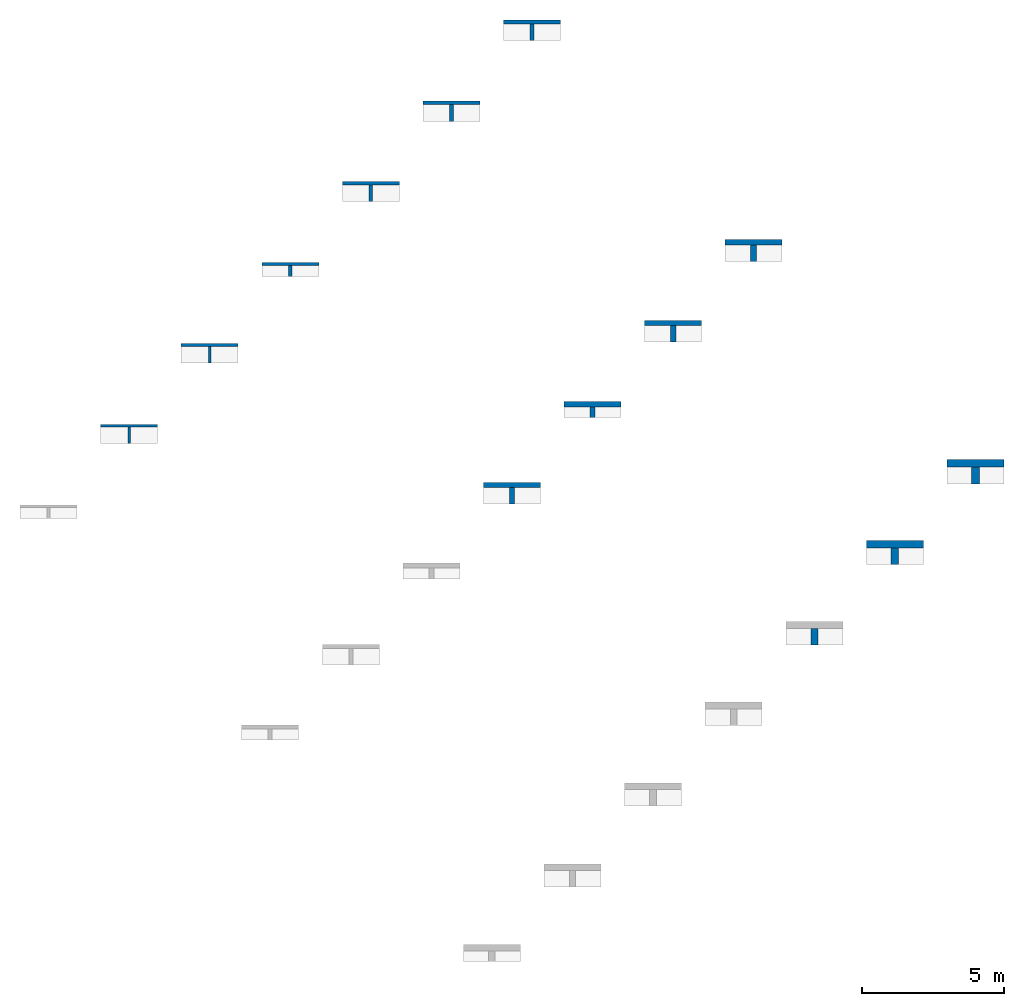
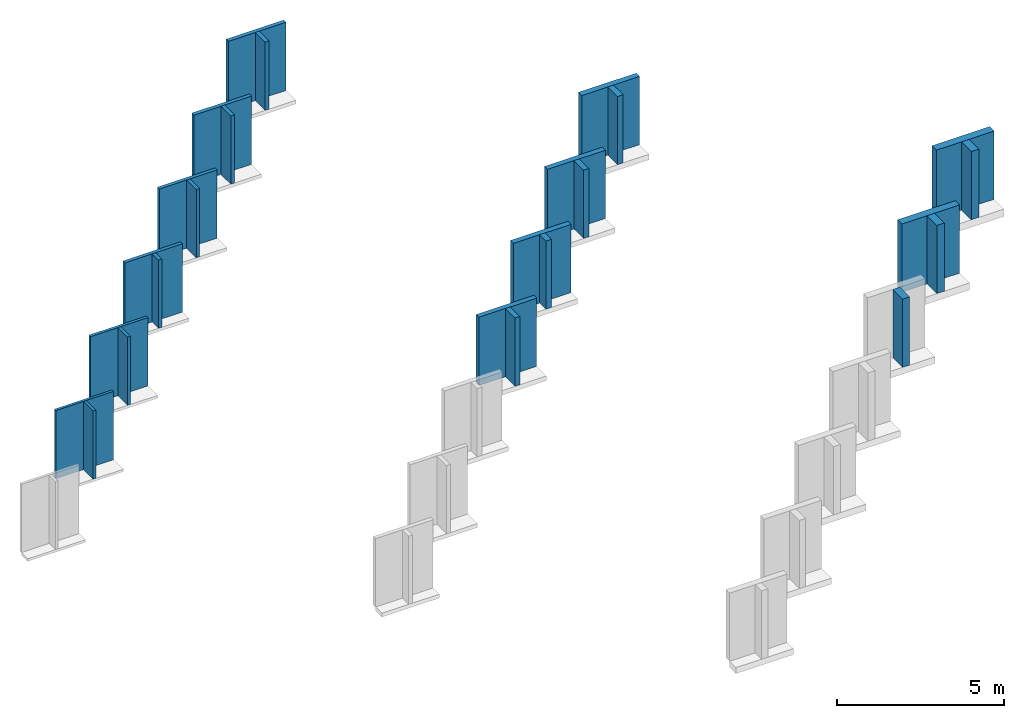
# One storey, part 2 of 2: 25 walls.
"""IFC2X3 building model written with IfcOpenShell, lengths in millimetres."""

from ifc_helpers import new_model, entity, si_unit, converted_unit, derived_unit, direction, frame, frame_2d, origin, place, context, subcontext, project, spatial, rectangle, extrude, material, layer, layer_set, layer_usage, type_object, element, save


model = new_model("IFC2X3")

# Units and contexts
model_context = context("Model", 3, precision=0.01, world=origin(), true_north=direction((6.12303176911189e-17, 1.0)))
context_of_model = context(None, 3, precision=0.01, world=origin(), true_north=direction((6.12303176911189e-17, 1.0)))
body_context = subcontext(model_context, "Body", "Model", "MODEL_VIEW")
ifc_project = project(units=[si_unit("LENGTHUNIT", "METRE", prefix="MILLI"), si_unit("AREAUNIT", "SQUARE_METRE"), si_unit("VOLUMEUNIT", "CUBIC_METRE"), converted_unit("PLANEANGLEUNIT", "DEGREE", entity("IfcRatioMeasure", 0.0174532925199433), si_unit("PLANEANGLEUNIT", "RADIAN"), dimensions=[0, 0, 0, 0, 0, 0, 0]), si_unit("MASSUNIT", "GRAM", prefix="KILO"), derived_unit("MASSDENSITYUNIT", [(si_unit("MASSUNIT", "GRAM", prefix="KILO"), 1), (si_unit("LENGTHUNIT", "METRE"), -3)]), derived_unit("MOMENTOFINERTIAUNIT", [(si_unit("LENGTHUNIT", "METRE"), 4)]), si_unit("TIMEUNIT", "SECOND"), si_unit("FREQUENCYUNIT", "HERTZ"), si_unit("THERMODYNAMICTEMPERATUREUNIT", "DEGREE_CELSIUS"), derived_unit("THERMALTRANSMITTANCEUNIT", [(si_unit("MASSUNIT", "GRAM", prefix="KILO"), 1), (si_unit("THERMODYNAMICTEMPERATUREUNIT", "KELVIN"), -1), (si_unit("TIMEUNIT", "SECOND"), -3)]), derived_unit("VOLUMETRICFLOWRATEUNIT", [(si_unit("LENGTHUNIT", "METRE"), 3), (si_unit("TIMEUNIT", "SECOND"), -1)]), si_unit("ELECTRICCURRENTUNIT", "AMPERE"), si_unit("ELECTRICVOLTAGEUNIT", "VOLT"), si_unit("POWERUNIT", "WATT"), si_unit("FORCEUNIT", "NEWTON", prefix="KILO"), si_unit("ILLUMINANCEUNIT", "LUX"), si_unit("LUMINOUSFLUXUNIT", "LUMEN"), si_unit("LUMINOUSINTENSITYUNIT", "CANDELA"), derived_unit("USERDEFINED", [(si_unit("MASSUNIT", "GRAM", prefix="KILO"), -1), (si_unit("LENGTHUNIT", "METRE"), -2), (si_unit("TIMEUNIT", "SECOND"), 3), (si_unit("LUMINOUSFLUXUNIT", "LUMEN"), 1)]), derived_unit("LINEARVELOCITYUNIT", [(si_unit("LENGTHUNIT", "METRE"), 1), (si_unit("TIMEUNIT", "SECOND"), -1)]), si_unit("PRESSUREUNIT", "PASCAL"), derived_unit("USERDEFINED", [(si_unit("LENGTHUNIT", "METRE"), -2), (si_unit("MASSUNIT", "GRAM", prefix="KILO"), 1), (si_unit("TIMEUNIT", "SECOND"), -2)]), derived_unit("LINEARFORCEUNIT", [(si_unit("MASSUNIT", "GRAM", prefix="KILO"), 1), (si_unit("LENGTHUNIT", "METRE"), 1), (si_unit("TIMEUNIT", "SECOND"), -2), (si_unit("LENGTHUNIT", "METRE"), -1)]), derived_unit("PLANARFORCEUNIT", [(si_unit("MASSUNIT", "GRAM", prefix="KILO"), 1), (si_unit("LENGTHUNIT", "METRE"), 1), (si_unit("TIMEUNIT", "SECOND"), -2), (si_unit("LENGTHUNIT", "METRE"), -2)])], contexts=[model_context, context_of_model])

# Site, building, storey
site_placement = place(None, origin())
site = spatial("IfcSite", under=ifc_project, at=site_placement, Name="Default", CompositionType="ELEMENT")
building_placement = place(site_placement, origin())
building = spatial("IfcBuilding", under=site, at=building_placement, CompositionType="ELEMENT")
storey_placement = place(building_placement, origin())
storey = spatial("IfcBuildingStorey", under=building, at=storey_placement, Name="Begane grond", CompositionType="ELEMENT", Elevation=0.0)

# Walls
ifc_material = material(Name="Knauf Insulation_Ecose® glaswol_naturoll 035")
ifc_layer_1 = layer(ifc_material, 90.0)
ifc_layer_set_1 = layer_set([ifc_layer_1], Name="Basic Wall:NLRS_21_WA_Naturoll 035_90x580x7600mm")
ifc_layer_usage_1 = layer_usage(ifc_layer_set_1, "AXIS2", "NEGATIVE", 45.0)
wall_type_1 = type_object("IfcWallType", Name="Basic Wall:NLRS_21_WA_Naturoll 035_90x580x7600mm", PredefinedType="STANDARD", material=ifc_layer_set_1)
wall_1_placement = place(storey_placement, frame((-1718.56215447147, 7320.34150287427, 0.0)))
element("IfcWallStandardCase", 1, at=wall_1_placement, inside=storey, type_object=wall_type_1, material=ifc_layer_usage_1, Name="Basic Wall:NLRS_21_WA_Naturoll 035_90x580x7600mm", ObjectType="Basic Wall:NLRS_21_WA_Naturoll 035_90x580x7600mm", context=body_context, shape_type="SweptSolid", body=[
    extrude(rectangle(XDim=2000.0, YDim=89.999999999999, at=frame_2d((1000.0, 0.0), x_axis=(-1.0, 0.0))), origin(), (0.0, 0.0, 1.0), 2500.0),
])
ifc_layer_usage_2 = layer_usage(ifc_layer_set_1, "AXIS2", "NEGATIVE", 45.0)
wall_2_placement = place(storey_placement, frame((-718.562154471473, 7275.34150287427, 0.0), z_axis=(0.0, 0.0, 1.0), x_axis=(0.0, -1.0, 0.0)))
element("IfcWallStandardCase", 2, at=wall_2_placement, inside=storey, type_object=wall_type_1, material=ifc_layer_usage_2, Name="Basic Wall:NLRS_21_WA_Naturoll 035_90x580x7600mm", ObjectType="Basic Wall:NLRS_21_WA_Naturoll 035_90x580x7600mm", context=body_context, shape_type="SweptSolid", body=[
    extrude(rectangle(XDim=580.0, YDim=90.0000000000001, at=frame_2d((290.0, 6.3948846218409e-14), x_axis=(-1.0, 0.0))), origin(), (0.0, 0.0, 1.0), 2500.0),
])
ifc_layer_2 = layer(ifc_material, 100.0)
ifc_layer_set_2 = layer_set([ifc_layer_2], Name="Basic Wall:NLRS_21_WA_Naturoll 035_100x580x7400mm")
ifc_layer_usage_3 = layer_usage(ifc_layer_set_2, "AXIS2", "NEGATIVE", 50.0)
wall_type_2 = type_object("IfcWallType", Name="Basic Wall:NLRS_21_WA_Naturoll 035_100x580x7400mm", PredefinedType="STANDARD", material=ifc_layer_set_2)
wall_3_placement = place(storey_placement, frame((1109.86497027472, 10153.7686276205, 0.0)))
element("IfcWallStandardCase", 3, at=wall_3_placement, inside=storey, type_object=wall_type_2, material=ifc_layer_usage_3, Name="Basic Wall:NLRS_21_WA_Naturoll 035_100x580x7400mm", ObjectType="Basic Wall:NLRS_21_WA_Naturoll 035_100x580x7400mm", context=body_context, shape_type="SweptSolid", body=[
    extrude(rectangle(XDim=2000.0, YDim=99.9999999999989, at=frame_2d((1000.0, 0.0), x_axis=(-1.0, 0.0))), origin(), (0.0, 0.0, 1.0), 2500.0),
])
ifc_layer_usage_4 = layer_usage(ifc_layer_set_2, "AXIS2", "NEGATIVE", 50.0)
wall_4_placement = place(storey_placement, frame((2109.86497027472, 10103.7686276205, 0.0), z_axis=(0.0, 0.0, 1.0), x_axis=(0.0, -1.0, 0.0)))
element("IfcWallStandardCase", 4, at=wall_4_placement, inside=storey, type_object=wall_type_2, material=ifc_layer_usage_4, Name="Basic Wall:NLRS_21_WA_Naturoll 035_100x580x7400mm", ObjectType="Basic Wall:NLRS_21_WA_Naturoll 035_100x580x7400mm", context=body_context, shape_type="SweptSolid", body=[
    extrude(rectangle(XDim=580.000000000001, YDim=100.0, at=frame_2d((290.000000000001, -7.105427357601e-14), x_axis=(-1.0, 0.0))), origin(), (0.0, 0.0, 1.0), 2500.0),
])
ifc_layer_3 = layer(ifc_material, 120.0)
ifc_layer_set_3 = layer_set([ifc_layer_3], Name="Basic Wall:NLRS_21_WA_Naturoll 035_120x380x6200mm")
ifc_layer_usage_5 = layer_usage(ifc_layer_set_3, "AXIS2", "NEGATIVE", 60.0)
wall_type_3 = type_object("IfcWallType", Name="Basic Wall:NLRS_21_WA_Naturoll 035_120x380x6200mm", PredefinedType="STANDARD", material=ifc_layer_set_3)
wall_5_placement = place(storey_placement, frame((3938.29209502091, 12992.1957523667, 0.0)))
element("IfcWallStandardCase", 5, at=wall_5_placement, inside=storey, type_object=wall_type_3, material=ifc_layer_usage_5, Name="Basic Wall:NLRS_21_WA_Naturoll 035_120x380x6200mm", ObjectType="Basic Wall:NLRS_21_WA_Naturoll 035_120x380x6200mm", context=body_context, shape_type="SweptSolid", body=[
    extrude(rectangle(XDim=2000.0, YDim=119.999999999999, at=frame_2d((1000.0, 0.0), x_axis=(-1.0, 0.0))), origin(), (0.0, 0.0, 1.0), 2500.0),
])
ifc_layer_usage_6 = layer_usage(ifc_layer_set_3, "AXIS2", "NEGATIVE", 60.0)
wall_6_placement = place(storey_placement, frame((4938.29209502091, 12932.1957523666, 0.0), z_axis=(0.0, 0.0, 1.0), x_axis=(0.0, -1.0, 0.0)))
element("IfcWallStandardCase", 6, at=wall_6_placement, inside=storey, type_object=wall_type_3, material=ifc_layer_usage_6, Name="Basic Wall:NLRS_21_WA_Naturoll 035_120x380x6200mm", ObjectType="Basic Wall:NLRS_21_WA_Naturoll 035_120x380x6200mm", context=body_context, shape_type="SweptSolid", body=[
    extrude(rectangle(XDim=380.0, YDim=120.000000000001, at=frame_2d((190.0, -2.34479102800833e-13), x_axis=(-1.0, 0.0))), origin(), (0.0, 0.0, 1.0), 2500.0),
])
ifc_layer_4 = layer(ifc_material, 120.0)
ifc_layer_set_4 = layer_set([ifc_layer_4], Name="Basic Wall:NLRS_21_WA_Naturoll 035_120x580x6200mm")
ifc_layer_usage_7 = layer_usage(ifc_layer_set_4, "AXIS2", "NEGATIVE", 60.0)
wall_type_4 = type_object("IfcWallType", Name="Basic Wall:NLRS_21_WA_Naturoll 035_120x580x6200mm", PredefinedType="STANDARD", material=ifc_layer_set_4)
wall_7_placement = place(storey_placement, frame((6766.71921976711, 15820.6228771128, 0.0)))
element("IfcWallStandardCase", 7, at=wall_7_placement, inside=storey, type_object=wall_type_4, material=ifc_layer_usage_7, Name="Basic Wall:NLRS_21_WA_Naturoll 035_120x580x6200mm", ObjectType="Basic Wall:NLRS_21_WA_Naturoll 035_120x580x6200mm", context=body_context, shape_type="SweptSolid", body=[
    extrude(rectangle(XDim=2000.0, YDim=119.999999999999, at=frame_2d((1000.0, 0.0), x_axis=(-1.0, 0.0))), origin(), (0.0, 0.0, 1.0), 2500.0),
])
ifc_layer_usage_8 = layer_usage(ifc_layer_set_4, "AXIS2", "NEGATIVE", 60.0)
wall_8_placement = place(storey_placement, frame((7766.7192197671, 15760.6228771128, 0.0), z_axis=(0.0, 0.0, 1.0), x_axis=(0.0, -1.0, 0.0)))
element("IfcWallStandardCase", 8, at=wall_8_placement, inside=storey, type_object=wall_type_4, material=ifc_layer_usage_8, Name="Basic Wall:NLRS_21_WA_Naturoll 035_120x580x6200mm", ObjectType="Basic Wall:NLRS_21_WA_Naturoll 035_120x580x6200mm", context=body_context, shape_type="SweptSolid", body=[
    extrude(rectangle(XDim=580.000000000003, YDim=120.000000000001, at=frame_2d((290.000000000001, -7.46069872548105e-14), x_axis=(-1.0, 0.0))), origin(), (0.0, 0.0, 1.0), 2500.0),
])
ifc_layer_5 = layer(ifc_material, 130.0)
ifc_layer_set_5 = layer_set([ifc_layer_5], Name="Basic Wall:NLRS_21_WA_Naturoll 035_130x590x5500mm")
ifc_layer_usage_9 = layer_usage(ifc_layer_set_5, "AXIS2", "NEGATIVE", 65.0)
wall_type_5 = type_object("IfcWallType", Name="Basic Wall:NLRS_21_WA_Naturoll 035_130x590x5500mm", PredefinedType="STANDARD", material=ifc_layer_set_5)
wall_9_placement = place(storey_placement, frame((9595.1463445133, 18654.050001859, 0.0)))
element("IfcWallStandardCase", 9, at=wall_9_placement, inside=storey, type_object=wall_type_5, material=ifc_layer_usage_9, Name="Basic Wall:NLRS_21_WA_Naturoll 035_130x590x5500mm", ObjectType="Basic Wall:NLRS_21_WA_Naturoll 035_130x590x5500mm", context=body_context, shape_type="SweptSolid", body=[
    extrude(rectangle(XDim=2000.0, YDim=130.000000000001, at=frame_2d((1000.0, 0.0), x_axis=(-1.0, 0.0))), origin(), (0.0, 0.0, 1.0), 2500.0),
])
ifc_layer_usage_10 = layer_usage(ifc_layer_set_5, "AXIS2", "NEGATIVE", 65.0)
wall_10_placement = place(storey_placement, frame((10595.1463445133, 18589.050001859, 0.0), z_axis=(0.0, 0.0, 1.0), x_axis=(0.0, -1.0, 0.0)))
element("IfcWallStandardCase", 10, at=wall_10_placement, inside=storey, type_object=wall_type_5, material=ifc_layer_usage_10, Name="Basic Wall:NLRS_21_WA_Naturoll 035_130x590x5500mm", ObjectType="Basic Wall:NLRS_21_WA_Naturoll 035_130x590x5500mm", context=body_context, shape_type="SweptSolid", body=[
    extrude(rectangle(XDim=590.0, YDim=130.000000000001, at=frame_2d((295.0, -6.03961325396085e-13), x_axis=(-1.0, 0.0))), origin(), (0.0, 0.0, 1.0), 2500.0),
])
ifc_layer_6 = layer(ifc_material, 170.0)
ifc_layer_set_6 = layer_set([ifc_layer_6], Name="Basic Wall:NLRS_21_WA_Naturoll 035_170x580x4350mm")
ifc_layer_usage_11 = layer_usage(ifc_layer_set_6, "AXIS2", "NEGATIVE", 85.0)
wall_type_6 = type_object("IfcWallType", Name="Basic Wall:NLRS_21_WA_Naturoll 035_170x580x4350mm", PredefinedType="STANDARD", material=ifc_layer_set_6)
wall_11_placement = place(storey_placement, frame((11716.1465088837, 5238.70098012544, 0.0)))
element("IfcWallStandardCase", 11, at=wall_11_placement, inside=storey, type_object=wall_type_6, material=ifc_layer_usage_11, Name="Basic Wall:NLRS_21_WA_Naturoll 035_170x580x4350mm", ObjectType="Basic Wall:NLRS_21_WA_Naturoll 035_170x580x4350mm", context=body_context, shape_type="SweptSolid", body=[
    extrude(rectangle(XDim=2000.0, YDim=170.0, at=frame_2d((1000.0, 0.0), x_axis=(-1.0, 0.0))), origin(), (0.0, 0.0, 1.0), 2500.0),
])
ifc_layer_usage_12 = layer_usage(ifc_layer_set_6, "AXIS2", "NEGATIVE", 85.0)
wall_12_placement = place(storey_placement, frame((12716.1465088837, 5153.70098012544, 0.0), z_axis=(0.0, 0.0, 1.0), x_axis=(0.0, -1.0, 0.0)))
element("IfcWallStandardCase", 12, at=wall_12_placement, inside=storey, type_object=wall_type_6, material=ifc_layer_usage_12, Name="Basic Wall:NLRS_21_WA_Naturoll 035_170x580x4350mm", ObjectType="Basic Wall:NLRS_21_WA_Naturoll 035_170x580x4350mm", context=body_context, shape_type="SweptSolid", body=[
    extrude(rectangle(XDim=580.0, YDim=170.0, at=frame_2d((290.0, -6.11066752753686e-13), x_axis=(-1.0, 0.0))), origin(), (0.0, 0.0, 1.0), 2500.0),
])
ifc_layer_7 = layer(ifc_material, 185.0)
ifc_layer_set_7 = layer_set([ifc_layer_7], Name="Basic Wall:NLRS_21_WA_Naturoll 035_185x380x4000mm")
ifc_layer_usage_13 = layer_usage(ifc_layer_set_7, "AXIS2", "NEGATIVE", 92.5)
wall_type_7 = type_object("IfcWallType", Name="Basic Wall:NLRS_21_WA_Naturoll 035_185x380x4000mm", PredefinedType="STANDARD", material=ifc_layer_set_7)
wall_13_placement = place(storey_placement, frame((14544.5736336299, 8074.62810487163, 0.0)))
element("IfcWallStandardCase", 13, at=wall_13_placement, inside=storey, type_object=wall_type_7, material=ifc_layer_usage_13, Name="Basic Wall:NLRS_21_WA_Naturoll 035_185x380x4000mm", ObjectType="Basic Wall:NLRS_21_WA_Naturoll 035_185x380x4000mm", context=body_context, shape_type="SweptSolid", body=[
    extrude(rectangle(XDim=2000.0, YDim=184.999999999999, at=frame_2d((1000.0, 0.0), x_axis=(-1.0, 0.0))), origin(), (0.0, 0.0, 1.0), 2500.0),
])
ifc_layer_usage_14 = layer_usage(ifc_layer_set_7, "AXIS2", "NEGATIVE", 92.5)
wall_14_placement = place(storey_placement, frame((15544.5736336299, 7982.12810487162, 0.0), z_axis=(0.0, 0.0, 1.0), x_axis=(0.0, -1.0, 0.0)))
element("IfcWallStandardCase", 14, at=wall_14_placement, inside=storey, type_object=wall_type_7, material=ifc_layer_usage_14, Name="Basic Wall:NLRS_21_WA_Naturoll 035_185x380x4000mm", ObjectType="Basic Wall:NLRS_21_WA_Naturoll 035_185x380x4000mm", context=body_context, shape_type="SweptSolid", body=[
    extrude(rectangle(XDim=380.0, YDim=185.000000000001, at=frame_2d((190.0, -7.74491581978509e-13), x_axis=(-1.0, 0.0))), origin(), (0.0, 0.0, 1.0), 2500.0),
])
ifc_layer_8 = layer(ifc_material, 200.0)
ifc_layer_set_8 = layer_set([ifc_layer_8], Name="Basic Wall:NLRS_21_WA_Naturoll 035_200x580x3700mm")
ifc_layer_usage_15 = layer_usage(ifc_layer_set_8, "AXIS2", "NEGATIVE", 100.0)
wall_type_8 = type_object("IfcWallType", Name="Basic Wall:NLRS_21_WA_Naturoll 035_200x580x3700mm", PredefinedType="STANDARD", material=ifc_layer_set_8)
wall_15_placement = place(storey_placement, frame((20189.3006541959, 13757.6741056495, 0.0)))
element("IfcWallStandardCase", 15, at=wall_15_placement, inside=storey, type_object=wall_type_8, material=ifc_layer_usage_15, Name="Basic Wall:NLRS_21_WA_Naturoll 035_200x580x3700mm", ObjectType="Basic Wall:NLRS_21_WA_Naturoll 035_200x580x3700mm", context=body_context, shape_type="SweptSolid", body=[
    extrude(rectangle(XDim=2000.0, YDim=199.999999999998, at=frame_2d((1000.0, 0.0), x_axis=(-1.0, 0.0))), origin(), (0.0, 0.0, 1.0), 2500.0),
])
ifc_layer_usage_16 = layer_usage(ifc_layer_set_8, "AXIS2", "NEGATIVE", 100.0)
wall_16_placement = place(storey_placement, frame((21189.3006541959, 13657.6741056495, 0.0), z_axis=(0.0, 0.0, 1.0), x_axis=(0.0, -1.0, 0.0)))
element("IfcWallStandardCase", 16, at=wall_16_placement, inside=storey, type_object=wall_type_8, material=ifc_layer_usage_16, Name="Basic Wall:NLRS_21_WA_Naturoll 035_200x580x3700mm", ObjectType="Basic Wall:NLRS_21_WA_Naturoll 035_200x580x3700mm", context=body_context, shape_type="SweptSolid", body=[
    extrude(rectangle(XDim=580.000000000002, YDim=199.999999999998, at=frame_2d((290.000000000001, 4.76063632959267e-13), x_axis=(-1.0, 0.0))), origin(), (0.0, 0.0, 1.0), 2500.0),
])
ifc_layer_9 = layer(ifc_material, 270.0)
ifc_layer_set_9 = layer_set([ifc_layer_9], Name="Basic Wall:NLRS_21_WA_Naturoll 035_270x590x2600mm")
ifc_layer_usage_17 = layer_usage(ifc_layer_set_9, "AXIS2", "NEGATIVE", 135.0)
wall_type_9 = type_object("IfcWallType", Name="Basic Wall:NLRS_21_WA_Naturoll 035_270x590x2600mm", PredefinedType="STANDARD", material=ifc_layer_set_9)
wall_17_placement = place(storey_placement, frame((27979.6024761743, 5995.80776131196, 0.0)))
element("IfcWallStandardCase", 17, at=wall_17_placement, inside=storey, type_object=wall_type_9, material=ifc_layer_usage_17, Name="Basic Wall:NLRS_21_WA_Naturoll 035_270x590x2600mm", ObjectType="Basic Wall:NLRS_21_WA_Naturoll 035_270x590x2600mm", context=body_context, shape_type="SweptSolid", body=[
    extrude(rectangle(XDim=2000.0, YDim=269.999999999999, at=frame_2d((1000.0, 0.0), x_axis=(-1.0, 0.0))), origin(), (0.0, 0.0, 1.0), 2500.0),
])
ifc_layer_usage_18 = layer_usage(ifc_layer_set_9, "AXIS2", "NEGATIVE", 135.0)
wall_18_placement = place(storey_placement, frame((28979.6024761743, 5860.80776131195, 0.0), z_axis=(0.0, 0.0, 1.0), x_axis=(0.0, -1.0, 0.0)))
element("IfcWallStandardCase", 18, at=wall_18_placement, inside=storey, type_object=wall_type_9, material=ifc_layer_usage_18, Name="Basic Wall:NLRS_21_WA_Naturoll 035_270x590x2600mm", ObjectType="Basic Wall:NLRS_21_WA_Naturoll 035_270x590x2600mm", context=body_context, shape_type="SweptSolid", body=[
    extrude(rectangle(XDim=590.0, YDim=269.999999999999, at=frame_2d((295.0, 4.83169060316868e-13), x_axis=(-1.0, 0.0))), origin(), (0.0, 0.0, 1.0), 2500.0),
])
ifc_layer_10 = layer(ifc_material, 185.0)
ifc_layer_set_10 = layer_set([ifc_layer_10], Name="Basic Wall:NLRS_21_WA_Naturoll 035_185x580x4000mm")
ifc_layer_usage_19 = layer_usage(ifc_layer_set_10, "AXIS2", "NEGATIVE", 92.5)
wall_type_10 = type_object("IfcWallType", Name="Basic Wall:NLRS_21_WA_Naturoll 035_185x580x4000mm", PredefinedType="STANDARD", material=ifc_layer_set_10)
wall_19_placement = place(storey_placement, frame((17373.0007583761, 10918.0552296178, 0.0)))
element("IfcWallStandardCase", 19, at=wall_19_placement, inside=storey, type_object=wall_type_10, material=ifc_layer_usage_19, Name="Basic Wall:NLRS_21_WA_Naturoll 035_185x580x4000mm", ObjectType="Basic Wall:NLRS_21_WA_Naturoll 035_185x580x4000mm", context=body_context, shape_type="SweptSolid", body=[
    extrude(rectangle(XDim=2000.0, YDim=185.000000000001, at=frame_2d((1000.0, 0.0), x_axis=(-1.0, 0.0))), origin(), (0.0, 0.0, 1.0), 2500.0),
])
ifc_layer_usage_20 = layer_usage(ifc_layer_set_10, "AXIS2", "NEGATIVE", 92.5)
wall_20_placement = place(storey_placement, frame((18373.0007583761, 10825.5552296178, 0.0), z_axis=(0.0, 0.0, 1.0), x_axis=(0.0, -1.0, 0.0)))
element("IfcWallStandardCase", 20, at=wall_20_placement, inside=storey, type_object=wall_type_10, material=ifc_layer_usage_20, Name="Basic Wall:NLRS_21_WA_Naturoll 035_185x580x4000mm", ObjectType="Basic Wall:NLRS_21_WA_Naturoll 035_185x580x4000mm", context=body_context, shape_type="SweptSolid", body=[
    extrude(rectangle(XDim=580.000000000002, YDim=185.000000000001, at=frame_2d((290.000000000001, -6.03961325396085e-13), x_axis=(-1.0, 0.0))), origin(), (0.0, 0.0, 1.0), 2500.0),
])
ifc_layer_11 = layer(ifc_material, 135.0)
ifc_layer_set_11 = layer_set([ifc_layer_11], Name="Basic Wall:NLRS_21_WA_Naturoll 035_135x590x5300mm")
ifc_layer_usage_21 = layer_usage(ifc_layer_set_11, "AXIS2", "NEGATIVE", 67.5)
wall_type_11 = type_object("IfcWallType", Name="Basic Wall:NLRS_21_WA_Naturoll 035_135x590x5300mm", PredefinedType="STANDARD", material=ifc_layer_set_11)
wall_21_placement = place(storey_placement, frame((12423.5734692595, 21484.9771266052, 0.0)))
element("IfcWallStandardCase", 21, at=wall_21_placement, inside=storey, type_object=wall_type_11, material=ifc_layer_usage_21, Name="Basic Wall:NLRS_21_WA_Naturoll 035_135x590x5300mm", ObjectType="Basic Wall:NLRS_21_WA_Naturoll 035_135x590x5300mm", context=body_context, shape_type="SweptSolid", body=[
    extrude(rectangle(XDim=2000.0, YDim=135.000000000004, at=frame_2d((1000.0, -1.08002495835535e-12), x_axis=(-1.0, 0.0))), origin(), (0.0, 0.0, 1.0), 2500.0),
])
ifc_layer_usage_22 = layer_usage(ifc_layer_set_11, "AXIS2", "NEGATIVE", 67.5)
wall_22_placement = place(storey_placement, frame((13423.5734692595, 21417.4771266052, 0.0), z_axis=(0.0, 0.0, 1.0), x_axis=(0.0, -1.0, 0.0)))
element("IfcWallStandardCase", 22, at=wall_22_placement, inside=storey, type_object=wall_type_11, material=ifc_layer_usage_22, Name="Basic Wall:NLRS_21_WA_Naturoll 035_135x590x5300mm", ObjectType="Basic Wall:NLRS_21_WA_Naturoll 035_135x590x5300mm", context=body_context, shape_type="SweptSolid", body=[
    extrude(rectangle(XDim=590.000000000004, YDim=135.0, at=frame_2d((295.000000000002, -6.03961325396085e-13), x_axis=(-1.0, 0.0))), origin(), (0.0, 0.0, 1.0), 2500.0),
])
ifc_layer_12 = layer(ifc_material, 260.0)
ifc_layer_set_12 = layer_set([ifc_layer_12], Name="Basic Wall:NLRS_21_WA_Naturoll 035_260x590x2700mm")
ifc_layer_usage_23 = layer_usage(ifc_layer_set_12, "AXIS2", "NEGATIVE", 130.0)
wall_type_12 = type_object("IfcWallType", Name="Basic Wall:NLRS_21_WA_Naturoll 035_260x590x2700mm", PredefinedType="STANDARD", material=ifc_layer_set_12)
wall_23_placement = place(storey_placement, frame((25151.1753514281, 3162.38063656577, 0.0)))
element("IfcWallStandardCase", 23, at=wall_23_placement, inside=storey, type_object=wall_type_12, material=ifc_layer_usage_23, Name="Basic Wall:NLRS_21_WA_Naturoll 035_260x590x2700mm", ObjectType="Basic Wall:NLRS_21_WA_Naturoll 035_260x590x2700mm", context=body_context, shape_type="SweptSolid", body=[
    extrude(rectangle(XDim=2000.0, YDim=260.0, at=frame_2d((1000.0, 0.0), x_axis=(-1.0, 0.0))), origin(), (0.0, 0.0, 1.0), 2500.0),
])
ifc_layer_usage_24 = layer_usage(ifc_layer_set_12, "AXIS2", "NEGATIVE", 130.0)
wall_24_placement = place(storey_placement, frame((26151.1753514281, 3032.38063656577, 0.0), z_axis=(0.0, 0.0, 1.0), x_axis=(0.0, -1.0, 0.0)))
element("IfcWallStandardCase", 24, at=wall_24_placement, inside=storey, type_object=wall_type_12, material=ifc_layer_usage_24, Name="Basic Wall:NLRS_21_WA_Naturoll 035_260x590x2700mm", ObjectType="Basic Wall:NLRS_21_WA_Naturoll 035_260x590x2700mm", context=body_context, shape_type="SweptSolid", body=[
    extrude(rectangle(XDim=590.0, YDim=260.000000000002, at=frame_2d((295.0, 4.83169060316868e-13), x_axis=(-1.0, 0.0))), origin(), (0.0, 0.0, 1.0), 2500.0),
])
ifc_layer_13 = layer(ifc_material, 245.0)
ifc_layer_set_13 = layer_set([ifc_layer_13], Name="Basic Wall:NLRS_21_WA_Naturoll 035_245x590x2600mm")
ifc_layer_usage_25 = layer_usage(ifc_layer_set_13, "AXIS2", "NEGATIVE", 122.5)
wall_type_13 = type_object("IfcWallType", Name="Basic Wall:NLRS_21_WA_Naturoll 035_245x590x2600mm", PredefinedType="STANDARD", material=ifc_layer_set_13)
wall_25_placement = place(storey_placement, frame((23322.748226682, 203.953511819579, 0.0), z_axis=(0.0, 0.0, 1.0), x_axis=(0.0, -1.0, 0.0)))
element("IfcWallStandardCase", 25, at=wall_25_placement, inside=storey, type_object=wall_type_13, material=ifc_layer_usage_25, Name="Basic Wall:NLRS_21_WA_Naturoll 035_245x590x2600mm", ObjectType="Basic Wall:NLRS_21_WA_Naturoll 035_245x590x2600mm", context=body_context, shape_type="SweptSolid", body=[
    extrude(rectangle(XDim=590.0, YDim=244.999999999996, at=frame_2d((295.0, 4.83169060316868e-13), x_axis=(-1.0, 0.0))), origin(), (0.0, 0.0, 1.0), 2500.0),
])

save(model, "model.ifc")
